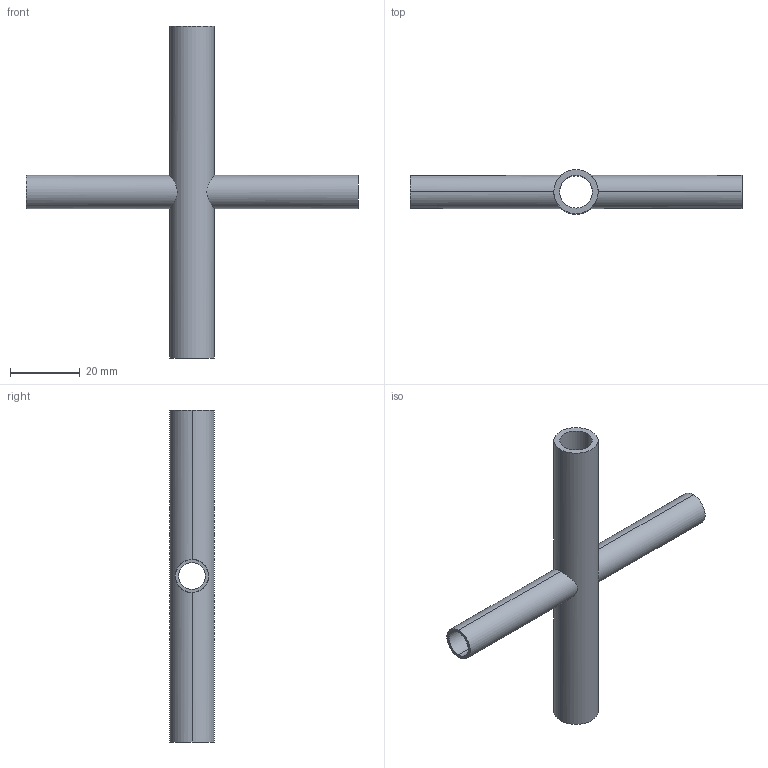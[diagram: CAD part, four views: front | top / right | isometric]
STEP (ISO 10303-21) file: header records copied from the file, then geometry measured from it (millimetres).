
FILE_DESCRIPTION (( 'STEP AP214' ), '1' );
FILE_NAME ('TE9RWWWW6L.5x.375-...STEP', '2016-05-22T04:05:42', ( 'eran' ), ( '' ), 'SwSTEP 2.0', 'SolidWorks 2016', '' );
FILE_SCHEMA (( 'AUTOMOTIVE_DESIGN' ));
Length unit declared in the file: millimetre
Products named in the file (1): TE9RWWWW6L.5x.375-..
Bounding box: 95.25 x 12.7 x 95.25 mm (x, y, z)
Volume: 7321.4 mm3; surface area: 11181 mm2
Topology: 1 solids, 1 shells, 16 faces, 40 edges, 24 vertices
Faces by surface type: cylinder 12, plane 4
Entity records: 786 total; most frequent: CARTESIAN_POINT 361, DIRECTION 82, ORIENTED_EDGE 80, EDGE_CURVE 40, AXIS2_PLACEMENT_3D 33, VERTEX_POINT 24, EDGE_LOOP 20, CIRCLE 16
